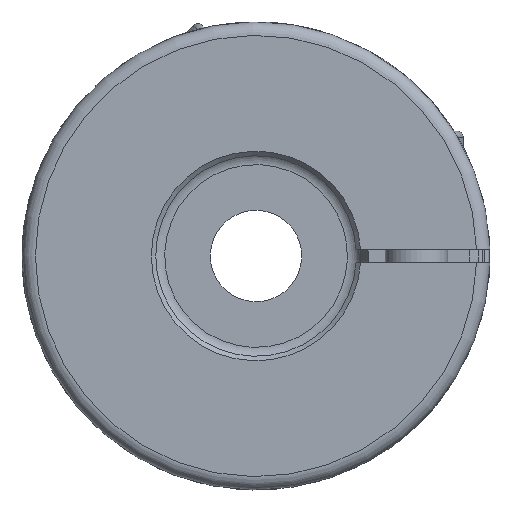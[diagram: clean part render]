
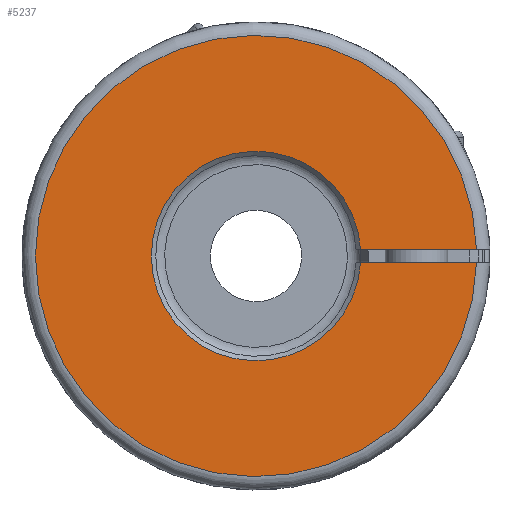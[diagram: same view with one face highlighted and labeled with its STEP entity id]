
A CAD part, left-side view. The second image highlights one B-rep face of the part: STEP entity #5237.
In plain terms, the highlighted planar face has unit normal (-1, 0, 0).
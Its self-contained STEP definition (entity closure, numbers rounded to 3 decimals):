
#21=LINE('',#7411,#173);
#24=LINE('',#7418,#176);
#173=VECTOR('',#6057,1000.);
#176=VECTOR('',#6064,1000.);
#329=PLANE('',#5554);
#472=CIRCLE('',#5422,23.5);
#558=CIRCLE('',#5552,49.5);
#1084=ORIENTED_EDGE('',*,*,#1973,.T.);
#1085=ORIENTED_EDGE('',*,*,#1901,.F.);
#1086=ORIENTED_EDGE('',*,*,#1969,.T.);
#1087=ORIENTED_EDGE('',*,*,#2119,.T.);
#1901=EDGE_CURVE('',#2476,#2478,#472,.T.);
#1969=EDGE_CURVE('',#2476,#2525,#21,.T.);
#1973=EDGE_CURVE('',#2528,#2478,#24,.T.);
#2119=EDGE_CURVE('',#2525,#2528,#558,.T.);
#2476=VERTEX_POINT('',#7084);
#2478=VERTEX_POINT('',#7087);
#2525=VERTEX_POINT('',#7410);
#2528=VERTEX_POINT('',#7419);
#3068=EDGE_LOOP('',(#1084,#1085,#1086,#1087));
#3350=FACE_BOUND('',#3068,.T.);
#5237=ADVANCED_FACE('',(#3350),#329,.T.);
#5422=AXIS2_PLACEMENT_3D('',#7086,#5924,#5925);
#5552=AXIS2_PLACEMENT_3D('',#7851,#6246,#6247);
#5554=AXIS2_PLACEMENT_3D('',#7853,#6250,#6251);
#5924=DIRECTION('',(-1.,0.,0.));
#5925=DIRECTION('',(0.,0.,1.));
#6057=DIRECTION('',(0.,-1.,0.));
#6064=DIRECTION('',(0.,1.,0.));
#6246=DIRECTION('',(-1.,0.,0.));
#6247=DIRECTION('',(0.,0.,1.));
#6250=DIRECTION('',(-1.,0.,0.));
#6251=DIRECTION('',(0.,0.,1.));
#7084=CARTESIAN_POINT('',(-89.956,-23.452,1.5));
#7086=CARTESIAN_POINT('',(-89.956,0.,0.));
#7087=CARTESIAN_POINT('',(-89.956,-23.452,-1.5));
#7410=CARTESIAN_POINT('',(-89.956,-49.477,1.5));
#7411=CARTESIAN_POINT('',(-89.956,0.,1.5));
#7418=CARTESIAN_POINT('',(-89.956,0.,-1.5));
#7419=CARTESIAN_POINT('',(-89.956,-49.477,-1.5));
#7851=CARTESIAN_POINT('',(-89.956,0.,0.));
#7853=CARTESIAN_POINT('',(-89.956,0.,49.5));
